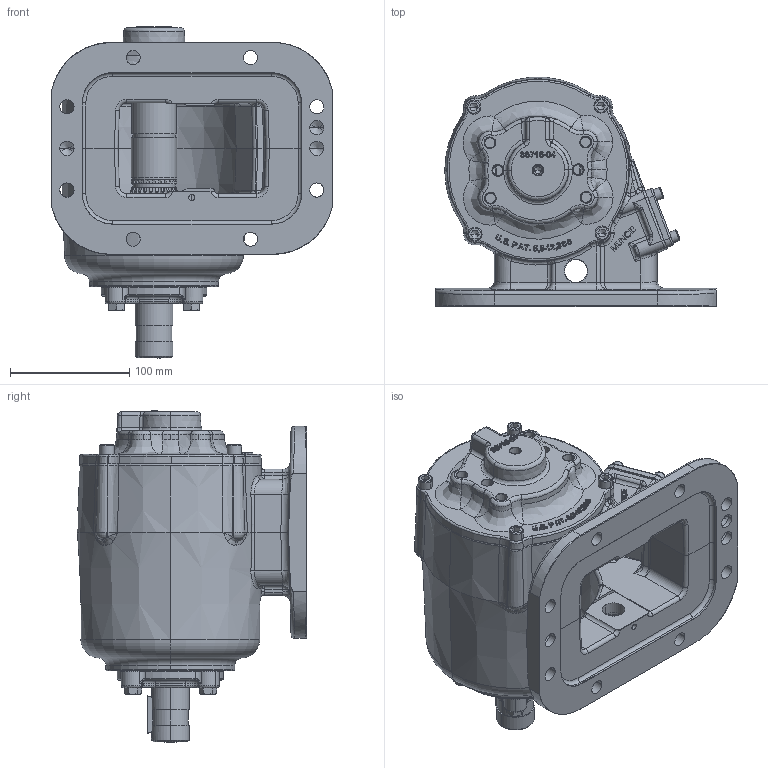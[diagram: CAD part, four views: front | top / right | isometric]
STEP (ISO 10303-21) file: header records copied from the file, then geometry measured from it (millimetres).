
FILE_DESCRIPTION (( 'STEP AP203' ), '1' );
FILE_NAME ('CS8S-XXXXX-E1BX.STEP', '2023-04-27T18:31:00', ( '' ), ( '' ), 'SwSTEP 2.0', 'SolidWorks 2021', '' );
FILE_SCHEMA (( 'CONFIG_CONTROL_DESIGN' ));
Length unit declared in the file: inch
Products named in the file (13): 26T01627_98481A235; 11T37790; 19T41756; 10T21017; CS8S-XXXXX-E1BX; 16t34000; 01T42182_01T42182; 19T35237; 19T41118; 06t36892; 15T41683; 15TA5220_Config1; 15T36717
Assembly tree (21 placements, depth 3):
  CS8S-XXXXX-E1BX
    16t34000
    15T36717
    01T42182_01T42182
    10T21017
    15TA5220_Config1
      15T41683
      11T37790
    19T41756  x4
    06t36892
    26T01627_98481A235
    19T41118  x4
    19T35237  x4
Bounding box: 234.96 x 192.24 x 278.52 mm (x, y, z)
Volume: 1717437.4 mm3; surface area: 452212.4 mm2
Topology: 20 solids, 20 shells, 2464 faces, 6236 edges, 3816 vertices
Faces by surface type: bspline 763, plane 621, cylinder 519, cone 305, torus 226, sphere 30
Entity records: 125865 total; most frequent: CARTESIAN_POINT 76601, ORIENTED_EDGE 11084, DIRECTION 8223, EDGE_CURVE 5542, VERTEX_POINT 3450, AXIS2_PLACEMENT_3D 3180, EDGE_LOOP 2406, ADVANCED_FACE 2206
